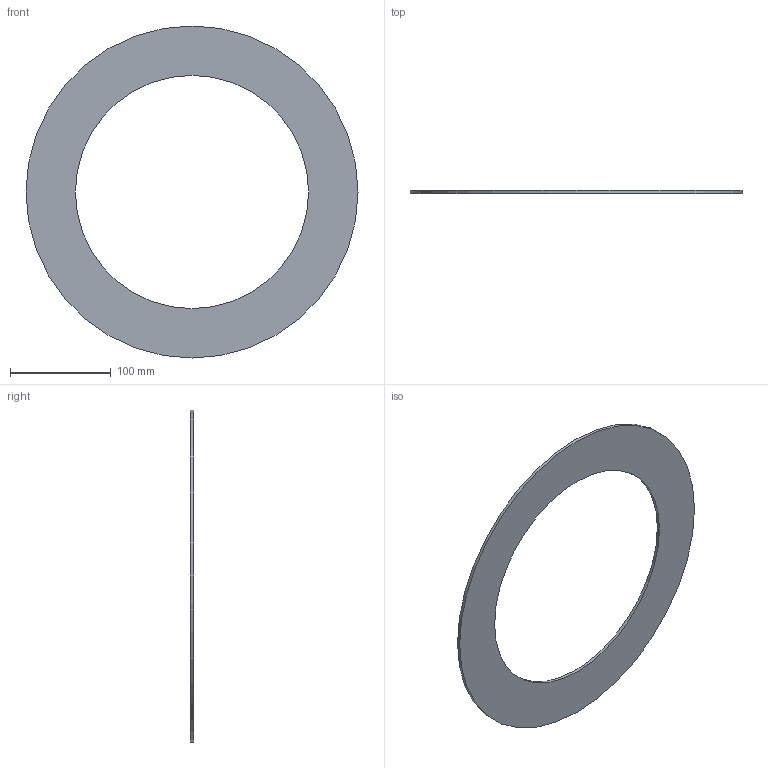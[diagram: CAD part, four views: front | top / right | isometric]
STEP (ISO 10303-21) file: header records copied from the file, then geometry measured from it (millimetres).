
FILE_DESCRIPTION(/* description */ ('Unknown'),/* implementation_level */ '2;1');
FILE_NAME(/* name */ 'GUA.280C',/* time_stamp */ '2021-04-01T12:34:59+02:00',/* author */ ('Unknown'),/* organization */ ('Unknown'),/* preprocessor_version */ 'ST-DEVELOPER v16.7',/* originating_system */ 'Solid Edge',/* authorisation */ 'Unknown');
FILE_SCHEMA (('AUTOMOTIVE_DESIGN {1 0 10303 214 3 1 1}'));
Length unit declared in the file: millimetre
Products named in the file (1): GUA.280C
Bounding box: 329 x 3 x 329 mm (x, y, z)
Volume: 129308 mm3; surface area: 91483.2 mm2
Topology: 1 solids, 1 shells, 4 faces, 6 edges, 4 vertices
Faces by surface type: cylinder 2, plane 2
Full cylindrical faces by diameter (mm): 231 x1, 329 x1
Entity records: 118 total; most frequent: DIRECTION 18, CARTESIAN_POINT 13, AXIS2_PLACEMENT_3D 9, ORIENTED_EDGE 8, EDGE_LOOP 8, FACE_BOUND 8, EDGE_CURVE 4, VERTEX_POINT 4
